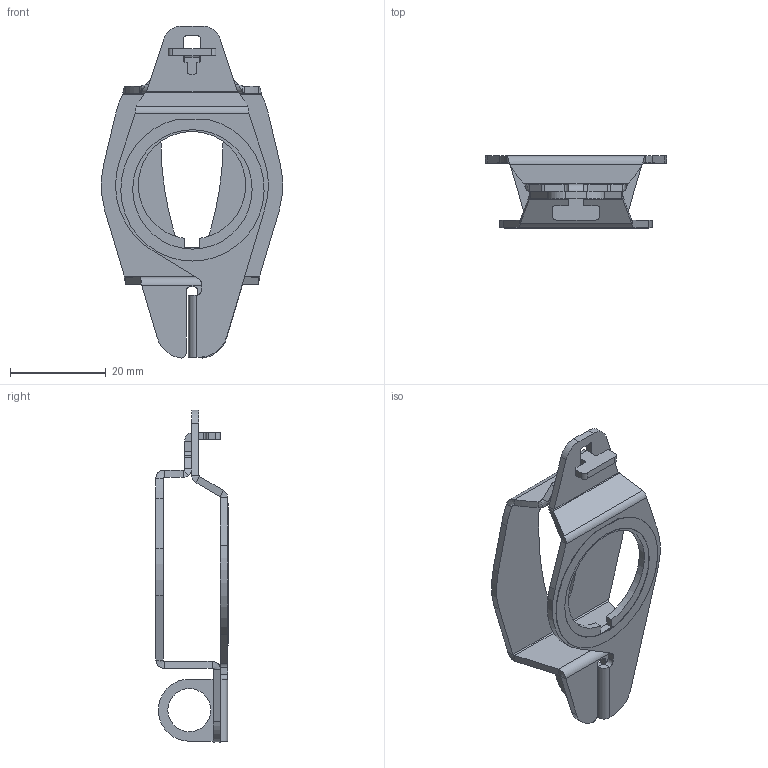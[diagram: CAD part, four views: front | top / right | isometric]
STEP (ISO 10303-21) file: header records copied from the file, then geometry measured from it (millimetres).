
FILE_DESCRIPTION((''),'2;1');
FILE_NAME('40359-512_ASM','2013-08-06T',('wwhu'),('Rockwell Automation'),'PRO/ENGINEER BY PARAMETRIC TECHNOLOGY CORPORATION, 2010140','PRO/ENGINEER BY PARAMETRIC TECHNOLOGY CORPORATION, 2010140','');
FILE_SCHEMA(('CONFIG_CONTROL_DESIGN'));
Length unit declared in the file: millimetre
Products named in the file (4): 40359-298; 40359-299; 40359-333; 40359-512_ASM
Assembly tree (3 placements, depth 2):
  40359-512_ASM
    40359-298
    40359-299
    40359-333
Bounding box: 37.93 x 15.1 x 69.48 mm (x, y, z)
Volume: 4303.7 mm3; surface area: 7113.7 mm2
Topology: 3 solids, 3 shells, 158 faces, 394 edges, 242 vertices
Faces by surface type: plane 76, cylinder 68, bspline 14
Entity records: 5226 total; most frequent: CARTESIAN_POINT 1363, ORIENTED_EDGE 788, DIRECTION 780, EDGE_CURVE 394, AXIS2_PLACEMENT_3D 263, VECTOR 254, LINE 254, VERTEX_POINT 242
